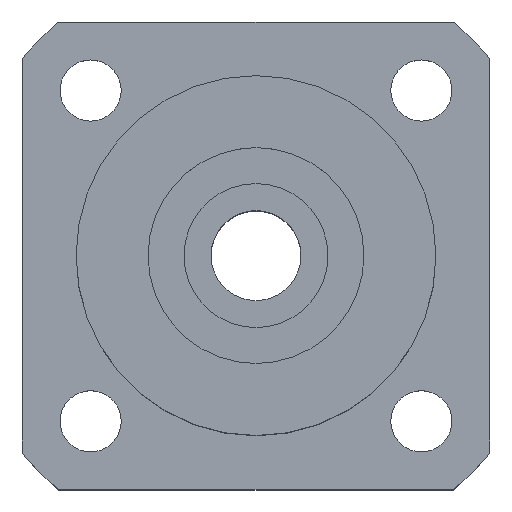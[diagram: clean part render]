
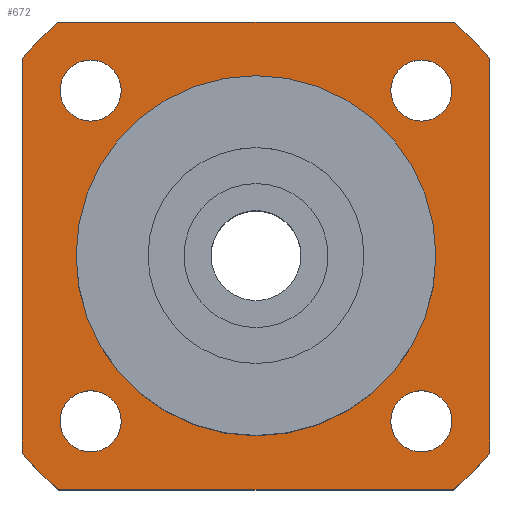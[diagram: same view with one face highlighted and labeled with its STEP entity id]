
A CAD part, top view. The second image highlights one B-rep face of the part: STEP entity #672.
In plain terms, the highlighted planar face has unit normal (0, 0, 1).
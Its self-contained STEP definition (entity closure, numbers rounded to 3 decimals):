
#97=LINE($,#1260,#129);
#100=LINE($,#1268,#132);
#103=LINE($,#1276,#135);
#106=LINE($,#1283,#138);
#129=VECTOR($,#932,21.909);
#132=VECTOR($,#941,21.909);
#135=VECTOR($,#950,21.909);
#138=VECTOR($,#959,21.909);
#180=FACE_BOUND($,#260,.T.);
#181=FACE_BOUND($,#261,.T.);
#182=FACE_BOUND($,#262,.T.);
#183=FACE_BOUND($,#263,.T.);
#184=FACE_BOUND($,#264,.T.);
#185=FACE_BOUND($,#265,.T.);
#260=EDGE_LOOP($,(#599));
#261=EDGE_LOOP($,(#600));
#262=EDGE_LOOP($,(#601));
#263=EDGE_LOOP($,(#602));
#264=EDGE_LOOP($,(#603));
#265=EDGE_LOOP($,(#604,#605,#606,#607,#608,#609,#610,#611));
#292=CIRCLE($,#724,1.7);
#295=CIRCLE($,#730,1.7);
#298=CIRCLE($,#736,1.7);
#301=CIRCLE($,#742,1.7);
#303=CIRCLE($,#745,10.);
#304=CIRCLE($,#748,17.);
#305=CIRCLE($,#751,17.);
#306=CIRCLE($,#754,17.);
#307=CIRCLE($,#757,17.);
#352=VERTEX_POINT($,#1217);
#355=VERTEX_POINT($,#1226);
#358=VERTEX_POINT($,#1235);
#361=VERTEX_POINT($,#1244);
#363=VERTEX_POINT($,#1249);
#364=VERTEX_POINT($,#1253);
#365=VERTEX_POINT($,#1255);
#366=VERTEX_POINT($,#1259);
#367=VERTEX_POINT($,#1263);
#368=VERTEX_POINT($,#1267);
#369=VERTEX_POINT($,#1271);
#370=VERTEX_POINT($,#1275);
#371=VERTEX_POINT($,#1279);
#424=EDGE_CURVE($,#352,#352,#292,.T.);
#427=EDGE_CURVE($,#355,#355,#295,.T.);
#430=EDGE_CURVE($,#358,#358,#298,.T.);
#433=EDGE_CURVE($,#361,#361,#301,.T.);
#435=EDGE_CURVE($,#363,#363,#303,.T.);
#437=EDGE_CURVE($,#365,#364,#304,.T.);
#439=EDGE_CURVE($,#366,#365,#97,.T.);
#441=EDGE_CURVE($,#367,#366,#305,.T.);
#443=EDGE_CURVE($,#368,#367,#100,.T.);
#445=EDGE_CURVE($,#369,#368,#306,.T.);
#447=EDGE_CURVE($,#370,#369,#103,.T.);
#449=EDGE_CURVE($,#371,#370,#307,.T.);
#451=EDGE_CURVE($,#364,#371,#106,.T.);
#599=ORIENTED_EDGE($,*,*,#424,.T.);
#600=ORIENTED_EDGE($,*,*,#427,.T.);
#601=ORIENTED_EDGE($,*,*,#430,.T.);
#602=ORIENTED_EDGE($,*,*,#433,.T.);
#603=ORIENTED_EDGE($,*,*,#435,.T.);
#604=ORIENTED_EDGE($,*,*,#451,.T.);
#605=ORIENTED_EDGE($,*,*,#449,.T.);
#606=ORIENTED_EDGE($,*,*,#447,.T.);
#607=ORIENTED_EDGE($,*,*,#445,.T.);
#608=ORIENTED_EDGE($,*,*,#443,.T.);
#609=ORIENTED_EDGE($,*,*,#441,.T.);
#610=ORIENTED_EDGE($,*,*,#439,.T.);
#611=ORIENTED_EDGE($,*,*,#437,.T.);
#630=PLANE($,#759);
#672=ADVANCED_FACE($,(#180,#181,#182,#183,#184,#185),#630,.T.);
#724=AXIS2_PLACEMENT_3D($,#1218,#878,#879);
#730=AXIS2_PLACEMENT_3D($,#1227,#890,#891);
#736=AXIS2_PLACEMENT_3D($,#1236,#902,#903);
#742=AXIS2_PLACEMENT_3D($,#1245,#914,#915);
#745=AXIS2_PLACEMENT_3D($,#1250,#920,#921);
#748=AXIS2_PLACEMENT_3D($,#1256,#927,#928);
#751=AXIS2_PLACEMENT_3D($,#1264,#936,#937);
#754=AXIS2_PLACEMENT_3D($,#1272,#945,#946);
#757=AXIS2_PLACEMENT_3D($,#1280,#954,#955);
#759=AXIS2_PLACEMENT_3D($,#1284,#960,#961);
#878=DIRECTION('center_axis',(0.,0.,-1.));
#879=DIRECTION('ref_axis',(-1.,0.,0.));
#890=DIRECTION('center_axis',(0.,0.,-1.));
#891=DIRECTION('ref_axis',(-1.,0.,0.));
#902=DIRECTION('center_axis',(0.,0.,-1.));
#903=DIRECTION('ref_axis',(-1.,0.,0.));
#914=DIRECTION('center_axis',(0.,0.,-1.));
#915=DIRECTION('ref_axis',(-1.,0.,0.));
#920=DIRECTION('center_axis',(0.,0.,-1.));
#921=DIRECTION('ref_axis',(-1.,0.,0.));
#927=DIRECTION('center_axis',(0.,0.,1.));
#928=DIRECTION('ref_axis',(-0.644,0.765,0.));
#932=DIRECTION($,(-1.,0.,0.));
#936=DIRECTION('center_axis',(0.,0.,1.));
#937=DIRECTION('ref_axis',(0.765,0.644,0.));
#941=DIRECTION($,(0.,1.,0.));
#945=DIRECTION('center_axis',(0.,0.,1.));
#946=DIRECTION('ref_axis',(0.644,-0.765,0.));
#950=DIRECTION($,(1.,0.,0.));
#954=DIRECTION('center_axis',(0.,0.,1.));
#955=DIRECTION('ref_axis',(-0.765,-0.644,0.));
#959=DIRECTION($,(0.,-1.,0.));
#960=DIRECTION('center_axis',(0.,0.,1.));
#961=DIRECTION('ref_axis',(1.,0.,0.));
#1217=CARTESIAN_POINT('',(-7.492,-9.192,6.));
#1218=CARTESIAN_POINT('Origin',(-9.192,-9.192,6.));
#1226=CARTESIAN_POINT('',(10.892,9.192,6.));
#1227=CARTESIAN_POINT('Origin',(9.192,9.192,6.));
#1235=CARTESIAN_POINT('',(10.892,-9.192,6.));
#1236=CARTESIAN_POINT('Origin',(9.192,-9.192,6.));
#1244=CARTESIAN_POINT('',(-7.492,9.192,6.));
#1245=CARTESIAN_POINT('Origin',(-9.192,9.192,6.));
#1249=CARTESIAN_POINT('',(10.,0.,6.));
#1250=CARTESIAN_POINT('Origin',(0.,0.,6.));
#1253=CARTESIAN_POINT('',(-13.,10.954,6.));
#1255=CARTESIAN_POINT('',(-10.954,13.,6.));
#1256=CARTESIAN_POINT('Origin',(0.,0.,6.));
#1259=CARTESIAN_POINT('',(10.954,13.,6.));
#1260=CARTESIAN_POINT($,(10.954,13.,6.));
#1263=CARTESIAN_POINT('',(13.,10.954,6.));
#1264=CARTESIAN_POINT('Origin',(0.,0.,6.));
#1267=CARTESIAN_POINT('',(13.,-10.954,6.));
#1268=CARTESIAN_POINT($,(13.,-10.954,6.));
#1271=CARTESIAN_POINT('',(10.954,-13.,6.));
#1272=CARTESIAN_POINT('Origin',(0.,0.,6.));
#1275=CARTESIAN_POINT('',(-10.954,-13.,6.));
#1276=CARTESIAN_POINT($,(-10.954,-13.,6.));
#1279=CARTESIAN_POINT('',(-13.,-10.954,6.));
#1280=CARTESIAN_POINT('Origin',(0.,0.,6.));
#1283=CARTESIAN_POINT($,(-13.,10.954,6.));
#1284=CARTESIAN_POINT('Origin',(0.,0.,6.));
